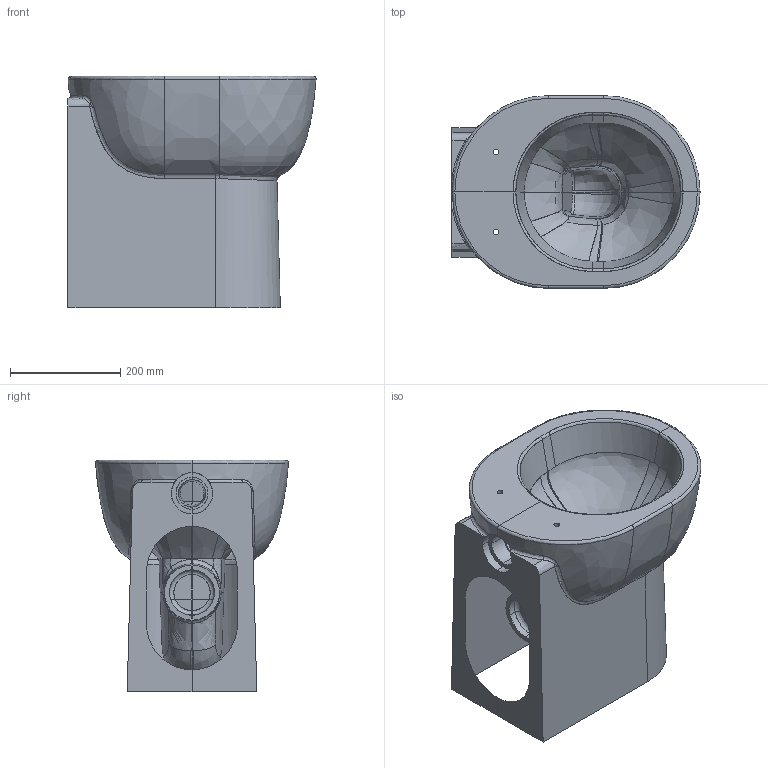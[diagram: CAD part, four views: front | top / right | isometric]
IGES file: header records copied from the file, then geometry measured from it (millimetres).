
Start section: START RECORD GO HERE.
Global section: file name: 5211U_vaso terra m2 45.igs; native system: DASSAULT SYSTEMES CATIA V5 R19 - www.3ds.com; preprocessor: CATIA Version 5 Release 19 SP 5 ; author: gioge; organization: LAPTOP-G94B6G74; date: 20200630.115651; units: millimetre
Bounding box: 449.79 x 349.58 x 420 mm (x, y, z)
Surface area: 937474.9 mm2 (no closed solid volume)
Topology: 0 solids, 0 shells, 174 faces, 912 edges, 906 vertices
Faces by surface type: bspline 116, revolution 36, plane 20, extrusion 2
